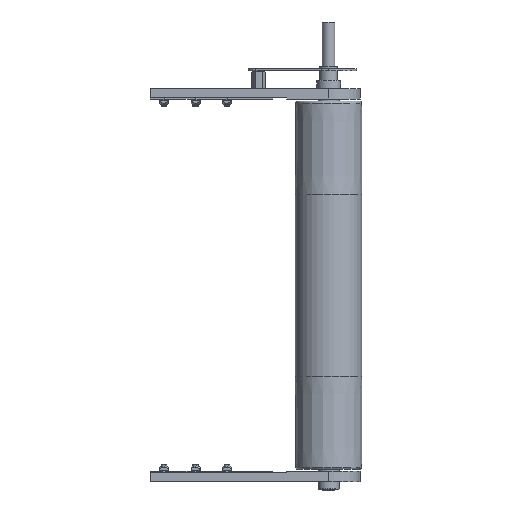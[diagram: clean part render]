
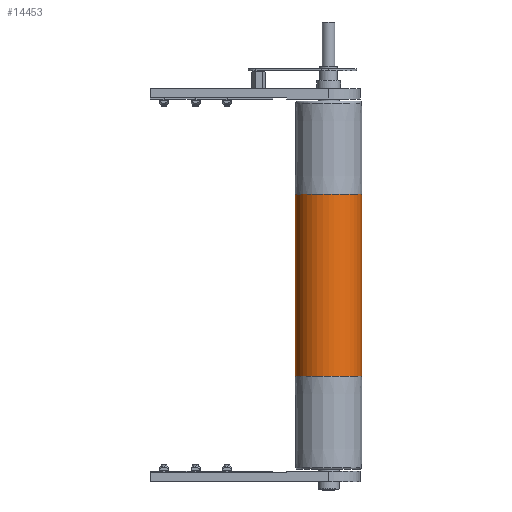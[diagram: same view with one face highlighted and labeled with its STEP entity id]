
A CAD part, front view. The second image highlights one B-rep face of the part: STEP entity #14453.
In plain terms, the highlighted cylindrical face has radius 47.5 mm (diameter 95 mm), a partial arc.
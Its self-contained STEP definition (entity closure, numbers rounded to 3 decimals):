
#889 = EDGE_LOOP ( 'NONE', ( #11570, #11277, #11540, #11306 ) ) ;
#3187 = DIRECTION ( 'NONE',  ( -1., 0., 0. ) ) ;
#3307 = CARTESIAN_POINT ( 'NONE',  ( 260., 0., 0. ) ) ;
#3348 = DIRECTION ( 'NONE',  ( 0., 0., 1. ) ) ;
#4725 = CARTESIAN_POINT ( 'NONE',  ( 130., 0., -47.5 ) ) ;
#5112 = CYLINDRICAL_SURFACE ( 'NONE', #16100, 47.5 ) ;
#5157 = FACE_OUTER_BOUND ( 'NONE', #889, .T. ) ;
#5511 = LINE ( 'NONE', #11009, #5543 ) ;
#5535 = LINE ( 'NONE', #10522, #5541 ) ;
#5541 = VECTOR ( 'NONE', #10523, 1000. ) ;
#5543 = VECTOR ( 'NONE', #11250, 1000. ) ;
#5659 = VERTEX_POINT ( 'NONE', #9844 ) ;
#5663 = VERTEX_POINT ( 'NONE', #10350 ) ;
#5704 = VERTEX_POINT ( 'NONE', #10170 ) ;
#6104 = VERTEX_POINT ( 'NONE', #4725 ) ;
#8526 = EDGE_CURVE ( 'NONE', #5704, #5663, #19259, .T. ) ;
#8528 = EDGE_CURVE ( 'NONE', #5659, #6104, #19260, .T. ) ;
#8807 = AXIS2_PLACEMENT_3D ( 'NONE', #16962, #16945, #16943 ) ;
#8809 = AXIS2_PLACEMENT_3D ( 'NONE', #17282, #17283, #17284 ) ;
#9844 = CARTESIAN_POINT ( 'NONE',  ( 130., 0., 47.5 ) ) ;
#10170 = CARTESIAN_POINT ( 'NONE',  ( -130., 0., 47.5 ) ) ;
#10350 = CARTESIAN_POINT ( 'NONE',  ( -130., 0., -47.5 ) ) ;
#10522 = CARTESIAN_POINT ( 'NONE',  ( 260., 0., -47.5 ) ) ;
#10523 = DIRECTION ( 'NONE',  ( -1., 0., 0. ) ) ;
#11009 = CARTESIAN_POINT ( 'NONE',  ( 260., 0., 47.5 ) ) ;
#11250 = DIRECTION ( 'NONE',  ( -1., 0., 0. ) ) ;
#11277 = ORIENTED_EDGE ( 'NONE', *, *, #8528, .F. ) ;
#11306 = ORIENTED_EDGE ( 'NONE', *, *, #8526, .T. ) ;
#11540 = ORIENTED_EDGE ( 'NONE', *, *, #14670, .T. ) ;
#11570 = ORIENTED_EDGE ( 'NONE', *, *, #14669, .F. ) ;
#14453 = ADVANCED_FACE ( 'NONE', ( #5157 ), #5112, .T. ) ;
#14669 = EDGE_CURVE ( 'NONE', #6104, #5663, #5535, .T. ) ;
#14670 = EDGE_CURVE ( 'NONE', #5659, #5704, #5511, .T. ) ;
#16100 = AXIS2_PLACEMENT_3D ( 'NONE', #3307, #3187, #3348 ) ;
#16943 = DIRECTION ( 'NONE',  ( 0., 0., -1. ) ) ;
#16945 = DIRECTION ( 'NONE',  ( 1., 0., 0. ) ) ;
#16962 = CARTESIAN_POINT ( 'NONE',  ( -130., 0., 0. ) ) ;
#17282 = CARTESIAN_POINT ( 'NONE',  ( 130., 0., 0. ) ) ;
#17283 = DIRECTION ( 'NONE',  ( 1., 0., 0. ) ) ;
#17284 = DIRECTION ( 'NONE',  ( 0., 0., -1. ) ) ;
#19259 = CIRCLE ( 'NONE', #8807, 47.5 ) ;
#19260 = CIRCLE ( 'NONE', #8809, 47.5 ) ;
